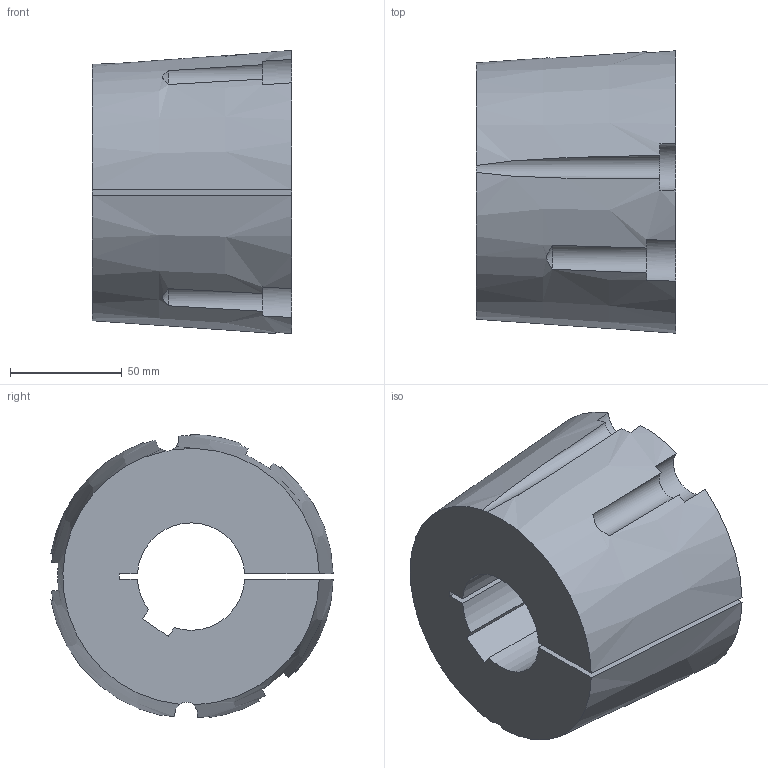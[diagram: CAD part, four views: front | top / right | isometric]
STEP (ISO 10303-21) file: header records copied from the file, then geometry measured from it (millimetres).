
FILE_DESCRIPTION( ( 'STEP AP203' ), '1' );
FILE_NAME( 'D:/export/antriebselemente/spannbuchsen_und_spannsaetze/taper-spannbuchsen_1008_bis_5050/taper-spannbuchsen_62251048Isometric_210.stp', '2018-12-11T11:11:27', ( '' ), ( '' ), ' ', 'PARTsolutions', ' ' );
FILE_SCHEMA( ( 'CONFIG_CONTROL_DESIGN' ) );
Length unit declared in the file: millimetre
Products named in the file (1): _taper-spannbuchsen_62251048
Bounding box: 89 x 126.13 x 126.46 mm (x, y, z)
Volume: 821469.5 mm3; surface area: 76305.8 mm2
Topology: 1 solids, 1 shells, 34 faces, 96 edges, 64 vertices
Faces by surface type: plane 15, cylinder 13, cone 6
Entity records: 1315 total; most frequent: CARTESIAN_POINT 391, ORIENTED_EDGE 192, DIRECTION 186, EDGE_CURVE 96, AXIS2_PLACEMENT_3D 80, VERTEX_POINT 64, CIRCLE 45, ADVANCED_FACE 34
